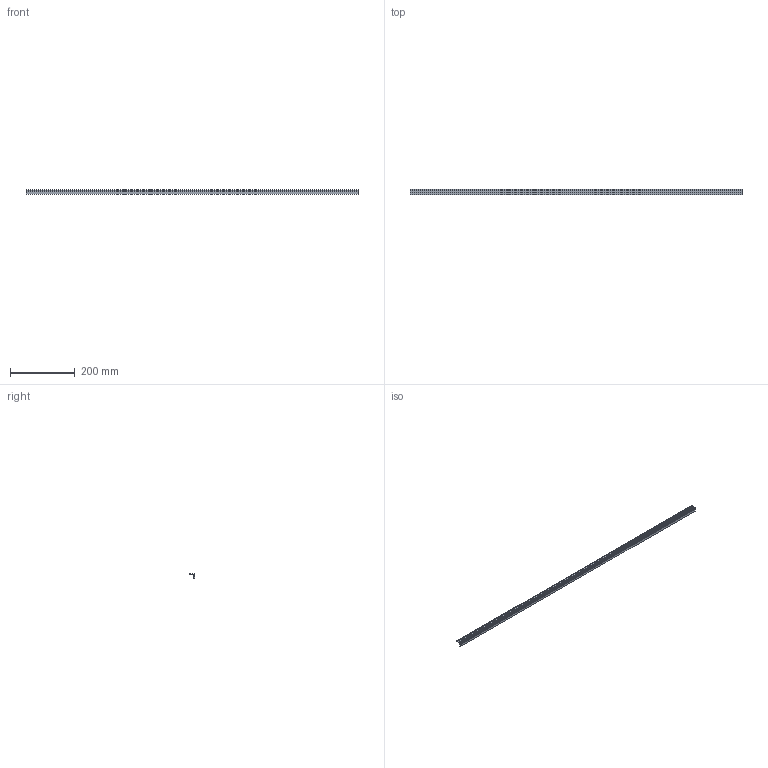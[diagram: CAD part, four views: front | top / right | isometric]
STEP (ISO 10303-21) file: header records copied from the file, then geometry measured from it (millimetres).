
FILE_DESCRIPTION( ( 'STEP AP214' ), '1' );
FILE_NAME( 'C:/Users/KOSH/Desktop/Same as task/Sliding folding/9278684.stp', '2021-07-01T13:41:43', ( '' ), ( '' ), ' ', 'PARTsolutions', ' ' );
FILE_SCHEMA( ( 'AUTOMOTIVE_DESIGN { 1 0 10303 214 1 1 1 1 }' ) );
Length unit declared in the file: millimetre
Products named in the file (1): _9278684
Bounding box: 1028 x 16 x 13.1 mm (x, y, z)
Volume: 49548.4 mm3; surface area: 69438.5 mm2
Topology: 1 solids, 1 shells, 38 faces, 108 edges, 72 vertices
Faces by surface type: plane 34, cylinder 4
Entity records: 1540 total; most frequent: CARTESIAN_POINT 219, ORIENTED_EDGE 216, DIRECTION 194, EDGE_CURVE 108, LINE 100, VECTOR 100, VERTEX_POINT 72, AXIS2_PLACEMENT_3D 47
